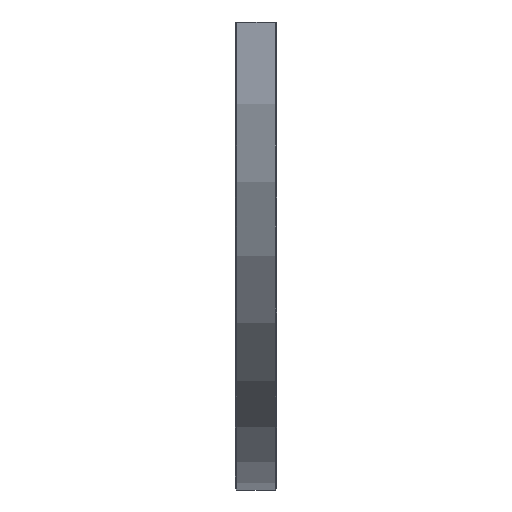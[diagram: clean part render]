
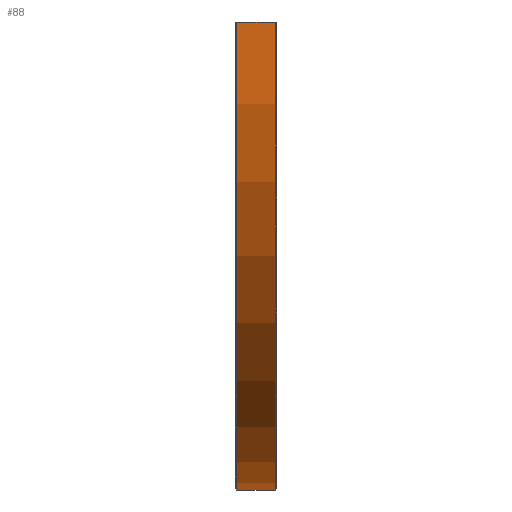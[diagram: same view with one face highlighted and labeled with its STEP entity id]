
A CAD part, left-side view. The second image highlights one B-rep face of the part: STEP entity #88.
In plain terms, the highlighted cylindrical face has radius 139 mm (diameter 278 mm), a partial arc.
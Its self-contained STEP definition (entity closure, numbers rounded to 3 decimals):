
#88 = ADVANCED_FACE( '', ( #143 ), #144, .T. );
#143 = FACE_OUTER_BOUND( '', #237, .T. );
#144 = CYLINDRICAL_SURFACE( '', #238, 139. );
#237 = EDGE_LOOP( '', ( #395, #396, #397, #398 ) );
#238 = AXIS2_PLACEMENT_3D( '', #399, #400, #401 );
#395 = ORIENTED_EDGE( '', *, *, #550, .F. );
#396 = ORIENTED_EDGE( '', *, *, #552, .T. );
#397 = ORIENTED_EDGE( '', *, *, #553, .T. );
#398 = ORIENTED_EDGE( '', *, *, #520, .T. );
#399 = CARTESIAN_POINT( '', ( 0., 0., 0. ) );
#400 = DIRECTION( '', ( 0., 1., 0. ) );
#401 = DIRECTION( '', ( 0., 0., -1. ) );
#520 = EDGE_CURVE( '', #589, #587, #590, .T. );
#550 = EDGE_CURVE( '', #640, #587, #641, .T. );
#552 = EDGE_CURVE( '', #640, #643, #644, .F. );
#553 = EDGE_CURVE( '', #643, #589, #645, .T. );
#587 = VERTEX_POINT( '', #712 );
#589 = VERTEX_POINT( '', #717 );
#590 = LINE( '', #718, #719 );
#640 = VERTEX_POINT( '', #796 );
#641 = CIRCLE( '', #797, 139. );
#643 = VERTEX_POINT( '', #802 );
#644 = LINE( '', #803, #804 );
#645 = CIRCLE( '', #805, 139. );
#712 = CARTESIAN_POINT( '', ( 138.992, 0.5, -1.5 ) );
#717 = CARTESIAN_POINT( '', ( 138.992, 11.75, -1.5 ) );
#718 = CARTESIAN_POINT( '', ( 138.992, 0., -1.5 ) );
#719 = VECTOR( '', #849, 1000. );
#796 = CARTESIAN_POINT( '', ( -138.992, 0.5, -1.5 ) );
#797 = AXIS2_PLACEMENT_3D( '', #910, #911, #912 );
#802 = CARTESIAN_POINT( '', ( -138.992, 11.75, -1.5 ) );
#803 = CARTESIAN_POINT( '', ( -138.992, 0., -1.5 ) );
#804 = VECTOR( '', #913, 1000. );
#805 = AXIS2_PLACEMENT_3D( '', #914, #915, #916 );
#849 = DIRECTION( '', ( 0., -1., 0. ) );
#910 = CARTESIAN_POINT( '', ( 0., 0.5, 0. ) );
#911 = DIRECTION( '', ( 0., -1., 0. ) );
#912 = DIRECTION( '', ( 0., 0., -1. ) );
#913 = DIRECTION( '', ( 0., -1., 0. ) );
#914 = CARTESIAN_POINT( '', ( 0., 11.75, 0. ) );
#915 = DIRECTION( '', ( 0., -1., 0. ) );
#916 = DIRECTION( '', ( 0., 0., -1. ) );
